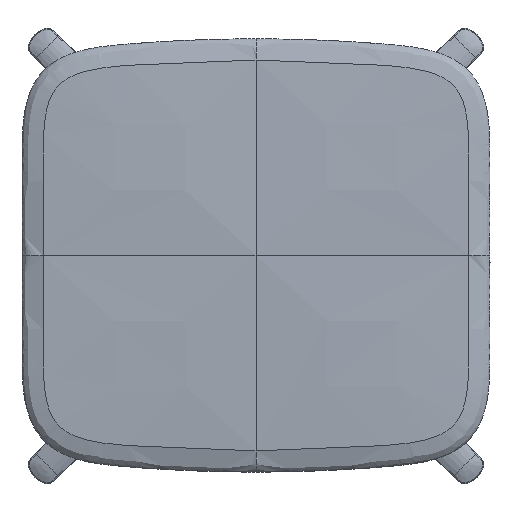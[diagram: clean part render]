
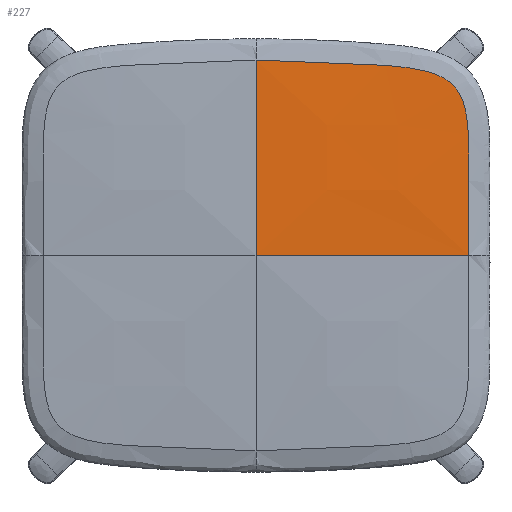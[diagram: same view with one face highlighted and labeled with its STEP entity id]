
A CAD part, top view. The second image highlights one B-rep face of the part: STEP entity #227.
In plain terms, the highlighted free-form (B-spline) face has degree [3, 3] with [4, 4] control points.
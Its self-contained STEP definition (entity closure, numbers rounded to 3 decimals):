
#57=B_SPLINE_SURFACE_WITH_KNOTS('',3,3,((#8354,#8355,#8356,#8357),(#8358,
#8359,#8360,#8361),(#8362,#8363,#8364,#8365),(#8366,#8367,#8368,#8369)),
 .UNSPECIFIED.,.F.,.F.,.F.,(4,4),(4,4),(0.,250.),(270.,540.),
 .UNSPECIFIED.);
#227=ADVANCED_FACE('',(#381),#57,.T.);
#381=FACE_OUTER_BOUND('',#535,.T.);
#535=EDGE_LOOP('',(#1191,#1192,#1193));
#1191=ORIENTED_EDGE('',*,*,#1557,.F.);
#1192=ORIENTED_EDGE('',*,*,#1540,.F.);
#1193=ORIENTED_EDGE('',*,*,#1558,.F.);
#1540=EDGE_CURVE('',#2108,#2106,#1698,.T.);
#1557=EDGE_CURVE('',#2106,#2117,#1715,.T.);
#1558=EDGE_CURVE('',#2117,#2108,#1716,.T.);
#1698=B_SPLINE_CURVE_WITH_KNOTS('',3,(#8998,#8999,#9000,#9001),
 .UNSPECIFIED.,.F.,.F.,(4,4),(-515.,-270.),
 .UNSPECIFIED.);
#1715=B_SPLINE_CURVE_WITH_KNOTS('',3,(#9179,#9180,#9181,#9182),
 .UNSPECIFIED.,.F.,.F.,(4,4),(-250.,-25.),.UNSPECIFIED.);
#1716=B_SPLINE_CURVE_WITH_KNOTS('',3,(#9183,#9184,#9185,#9186,#9187,#9188,
#9189,#9190,#9191,#9192,#9193,#9194,#9195,#9196,#9197,#9198,#9199,#9200,
#9201,#9202,#9203,#9204,#9205,#9206,#9207,#9208),.UNSPECIFIED.,.F.,.F.,
(4,1,1,1,2,1,1,1,2,2,2,1,1,1,2,1,1,1,4),(0.,135.824,149.847,
163.871,177.894,197.119,205.94,214.76,
223.581,241.222,258.863,267.683,276.504,
285.324,308.167,323.999,339.831,355.662,
449.839),.UNSPECIFIED.);
#2106=VERTEX_POINT('',#8980);
#2108=VERTEX_POINT('',#8982);
#2117=VERTEX_POINT('',#8991);
#8354=CARTESIAN_POINT('',(0.,250.,386.));
#8355=CARTESIAN_POINT('',(90.,250.,386.));
#8356=CARTESIAN_POINT('',(180.,250.,386.));
#8357=CARTESIAN_POINT('',(270.,250.,386.));
#8358=CARTESIAN_POINT('',(0.,166.667,393.));
#8359=CARTESIAN_POINT('',(90.,166.667,393.));
#8360=CARTESIAN_POINT('',(180.,166.667,393.));
#8361=CARTESIAN_POINT('',(270.,166.667,386.));
#8362=CARTESIAN_POINT('',(0.,83.333,395.));
#8363=CARTESIAN_POINT('',(90.,83.333,395.));
#8364=CARTESIAN_POINT('',(180.,83.333,393.));
#8365=CARTESIAN_POINT('',(270.,83.333,386.));
#8366=CARTESIAN_POINT('',(0.,0.,395.));
#8367=CARTESIAN_POINT('',(90.,0.,395.));
#8368=CARTESIAN_POINT('',(180.,0.,393.));
#8369=CARTESIAN_POINT('',(270.,0.,386.));
#8980=CARTESIAN_POINT('',(0.,0.,395.));
#8982=CARTESIAN_POINT('',(245.,0.,387.818));
#8991=CARTESIAN_POINT('',(0.,225.,387.953));
#8998=CARTESIAN_POINT('',(245.,0.,387.818));
#8999=CARTESIAN_POINT('',(163.333,0.,393.353));
#9000=CARTESIAN_POINT('',(81.667,0.,395.));
#9001=CARTESIAN_POINT('',(0.,0.,395.));
#9179=CARTESIAN_POINT('',(0.,0.,395.));
#9180=CARTESIAN_POINT('',(0.,75.,395.));
#9181=CARTESIAN_POINT('',(0.,150.,393.38));
#9182=CARTESIAN_POINT('',(0.,225.,387.953));
#9183=CARTESIAN_POINT('',(0.,225.,387.953));
#9184=CARTESIAN_POINT('',(45.021,225.001,387.951));
#9185=CARTESIAN_POINT('',(94.54,223.144,388.099));
#9186=CARTESIAN_POINT('',(148.87,218.889,387.957));
#9187=CARTESIAN_POINT('',(162.023,217.732,387.899));
#9188=CARTESIAN_POINT('',(170.924,216.727,387.852));
#9189=CARTESIAN_POINT('',(181.41,215.254,387.794));
#9190=CARTESIAN_POINT('',(190.081,213.768,387.744));
#9191=CARTESIAN_POINT('',(201.748,210.507,387.67));
#9192=CARTESIAN_POINT('',(208.352,208.088,387.626));
#9193=CARTESIAN_POINT('',(212.907,205.954,387.594));
#9194=CARTESIAN_POINT('',(219.369,202.416,387.548));
#9195=CARTESIAN_POINT('',(223.419,199.507,387.517));
#9196=CARTESIAN_POINT('',(230.316,192.465,387.467));
#9197=CARTESIAN_POINT('',(233.147,188.354,387.449));
#9198=CARTESIAN_POINT('',(236.439,181.76,387.433));
#9199=CARTESIAN_POINT('',(238.372,177.118,387.426));
#9200=CARTESIAN_POINT('',(240.452,170.391,387.424));
#9201=CARTESIAN_POINT('',(243.235,157.41,387.44));
#9202=CARTESIAN_POINT('',(244.094,147.49,387.474));
#9203=CARTESIAN_POINT('',(244.749,135.189,387.527));
#9204=CARTESIAN_POINT('',(244.994,125.063,387.576));
#9205=CARTESIAN_POINT('',(245.009,110.185,387.649));
#9206=CARTESIAN_POINT('',(244.994,67.96,387.811));
#9207=CARTESIAN_POINT('',(245.002,31.427,387.818));
#9208=CARTESIAN_POINT('',(245.,0.,387.818));
